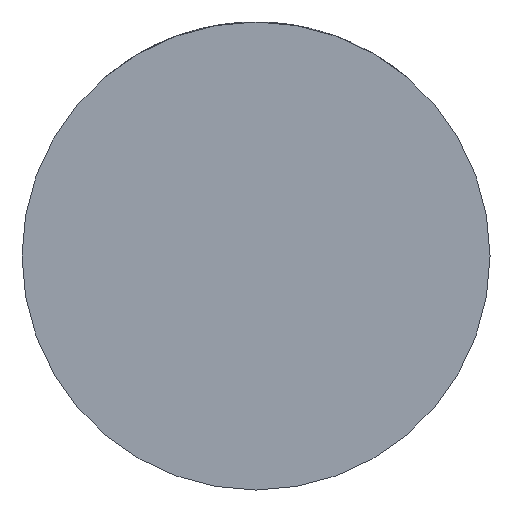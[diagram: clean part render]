
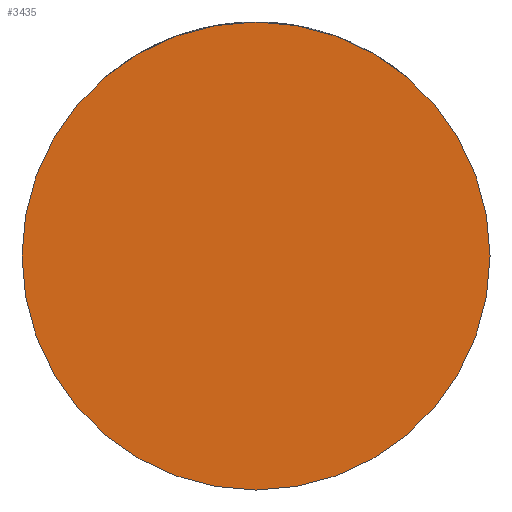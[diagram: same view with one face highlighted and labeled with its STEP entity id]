
A CAD part, front view. The second image highlights one B-rep face of the part: STEP entity #3435.
In plain terms, the highlighted planar face has unit normal (0, -1, 0).
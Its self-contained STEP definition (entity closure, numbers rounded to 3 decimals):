
#641 = ORIENTED_EDGE ( 'NONE', *, *, #3936, .T. ) ;
#709 = PLANE ( 'NONE',  #4139 ) ;
#936 = EDGE_CURVE ( 'NONE', #3645, #2188, #4199, .T. ) ;
#1232 = CARTESIAN_POINT ( 'NONE',  ( 49., -45., 0. ) ) ;
#1580 = DIRECTION ( 'NONE',  ( 0., -1., 0. ) ) ;
#1879 = EDGE_LOOP ( 'NONE', ( #641, #3737 ) ) ;
#1929 = CARTESIAN_POINT ( 'NONE',  ( 0., -45., 0. ) ) ;
#2039 = CARTESIAN_POINT ( 'NONE',  ( -49., -45., 0. ) ) ;
#2150 = CARTESIAN_POINT ( 'NONE',  ( 0., -45., 0. ) ) ;
#2188 = VERTEX_POINT ( 'NONE', #2039 ) ;
#2620 = AXIS2_PLACEMENT_3D ( 'NONE', #1929, #1580, #3006 ) ;
#2710 = CIRCLE ( 'NONE', #4280, 49. ) ;
#3006 = DIRECTION ( 'NONE',  ( 1., 0., 0. ) ) ;
#3061 = FACE_OUTER_BOUND ( 'NONE', #1879, .T. ) ;
#3134 = CARTESIAN_POINT ( 'NONE',  ( 0., -45., 0. ) ) ;
#3246 = DIRECTION ( 'NONE',  ( 0., -1., 0. ) ) ;
#3435 = ADVANCED_FACE ( 'NONE', ( #3061 ), #709, .T. ) ;
#3581 = DIRECTION ( 'NONE',  ( 1., 0., 0. ) ) ;
#3645 = VERTEX_POINT ( 'NONE', #1232 ) ;
#3737 = ORIENTED_EDGE ( 'NONE', *, *, #936, .T. ) ;
#3936 = EDGE_CURVE ( 'NONE', #2188, #3645, #2710, .T. ) ;
#4139 = AXIS2_PLACEMENT_3D ( 'NONE', #2150, #3246, #3581 ) ;
#4199 = CIRCLE ( 'NONE', #2620, 49. ) ;
#4280 = AXIS2_PLACEMENT_3D ( 'NONE', #3134, #4299, #4604 ) ;
#4299 = DIRECTION ( 'NONE',  ( 0., -1., 0. ) ) ;
#4604 = DIRECTION ( 'NONE',  ( 1., 0., 0. ) ) ;
